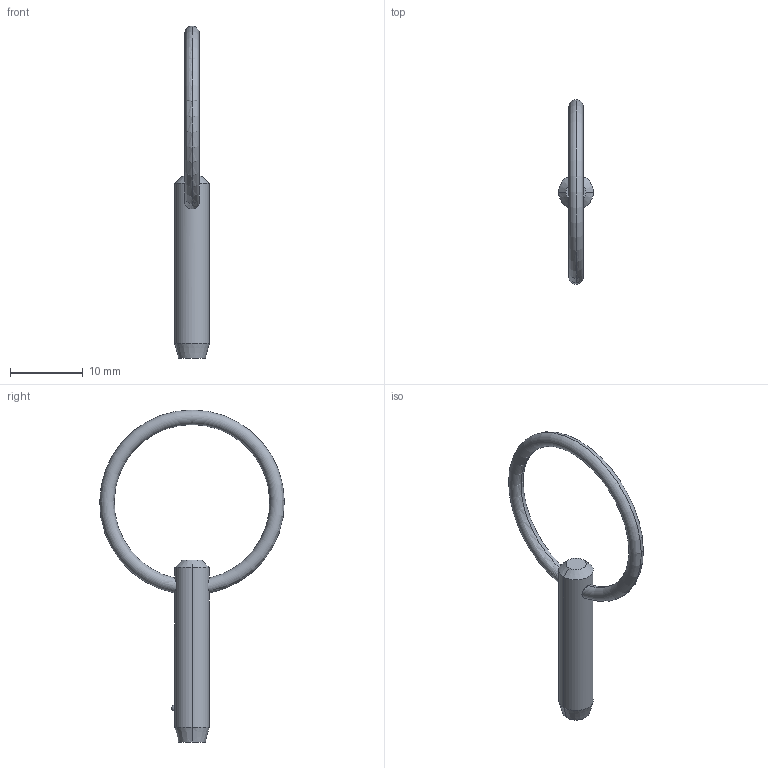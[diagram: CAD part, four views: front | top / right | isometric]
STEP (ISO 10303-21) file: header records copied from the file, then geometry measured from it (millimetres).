
FILE_DESCRIPTION (( 'STEP AP203' ), '1' );
FILE_NAME ('P1250.018-060.step', '2019-07-29T19:29:45', ( '' ), ( '' ), 'SwSTEP 2.0', 'SolidWorks 2017', '' );
FILE_SCHEMA (( 'CONFIG_CONTROL_DESIGN' ));
Length unit declared in the file: millimetre
Products named in the file (1): P1250.018-060
Bounding box: 4.76 x 25.4 x 45.68 mm (x, y, z)
Volume: 647.8 mm3; surface area: 817.3 mm2
Topology: 1 solids, 1 shells, 12 faces, 28 edges, 17 vertices
Faces by surface type: cone 4, torus 2, sphere 2, cylinder 2, plane 2
Entity records: 471 total; most frequent: CARTESIAN_POINT 138, DIRECTION 56, ORIENTED_EDGE 48, AXIS2_PLACEMENT_3D 25, EDGE_CURVE 24, VERTEX_POINT 15, EDGE_LOOP 15, ADVANCED_FACE 12
